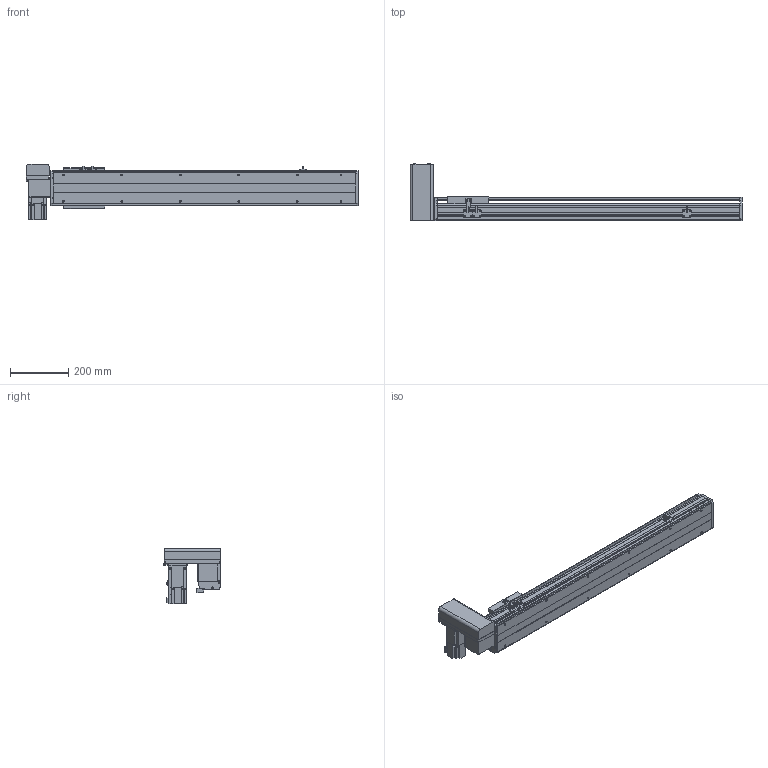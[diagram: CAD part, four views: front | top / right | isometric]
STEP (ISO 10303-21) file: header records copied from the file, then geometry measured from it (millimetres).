
FILE_DESCRIPTION(/* description */ ('STEP AP214'),/* implementation_level */ '2;1');
FILE_NAME(/* name */ 'PBS120-P40-S750-RU-T40-C1-N(0)',/* time_stamp */ '2022-06-06T02:49:11+02:00',/* author */ ('License CC BY-ND 4.0'),/* organization */ ('CADENAS'),/* preprocessor_version */ 'ST-DEVELOPER v18.102',/* originating_system */ 'PARTsolutions',/* authorisation */ ' ');
FILE_SCHEMA (('AUTOMOTIVE_DESIGN {1 0 10303 214 3 1 1}'));
Length unit declared in the file: millimetre
Products named in the file (7): PBS120-P40-S750-RU-T40-C1-N(0); PBS120_sensor; PBS120_plant; PBS120_sliser; T40-p1; PBS120T-RU_motors; PBS120-S750()_body
Assembly tree (8 placements, depth 2):
  PBS120-P40-S750-RU-T40-C1-N(0)
    PBS120_sensor  x3
    PBS120_plant
    PBS120_sliser
    T40-p1
    PBS120T-RU_motors
    PBS120-S750()_body
Bounding box: 1136 x 198 x 189.7 mm (x, y, z)
Volume: 5147558.2 mm3; surface area: 984197.2 mm2
Topology: 8 solids, 8 shells, 816 faces, 2136 edges, 1375 vertices
Faces by surface type: plane 545, cylinder 225, cone 44, torus 2
Full cylindrical faces by diameter (mm): 2.459 x6, 3.242 x4, 4 x2, 4.134 x4, 4.5 x10, 4.917 x16, 5.5 x11, 6 x2, 6.6 x1, 7 x2, 8.5 x4, 9 x4, 12 x1, 14 x1, 30 x2, 40 x1, 50 x2
Entity records: 21354 total; most frequent: DIRECTION 3692, CARTESIAN_POINT 3641, ORIENTED_EDGE 3478, EDGE_CURVE 1739, AXIS2_PLACEMENT_3D 1232, LINE 1228, VECTOR 1228, VERTEX_POINT 1181
